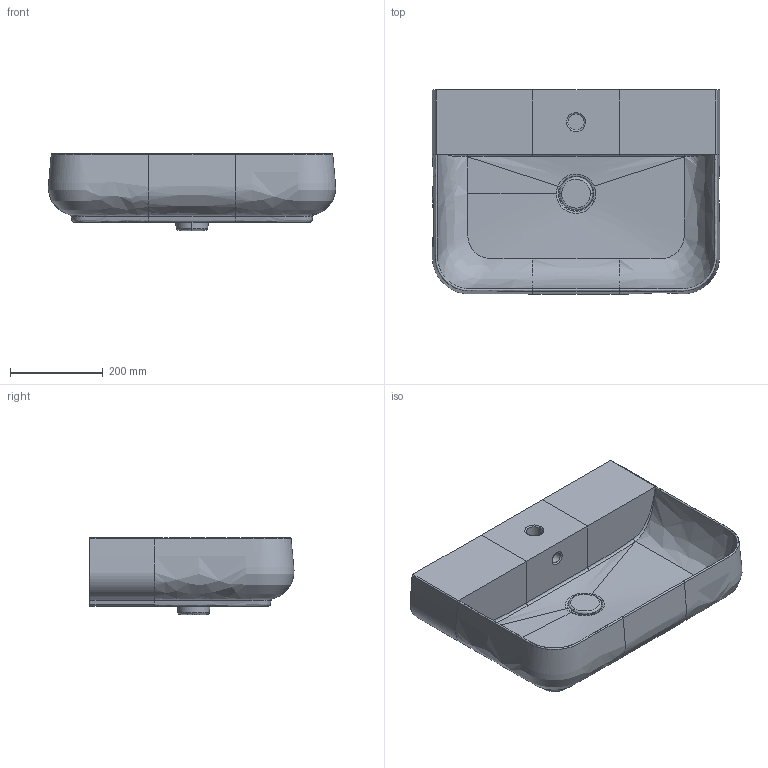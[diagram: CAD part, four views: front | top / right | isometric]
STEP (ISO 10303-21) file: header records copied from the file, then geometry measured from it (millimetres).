
FILE_DESCRIPTION(/* description */ (''),/* implementation_level */ '2;1');
FILE_NAME(/* name */ 'QUBE_4',/* time_stamp */ '2020-11-16T12:42:30+01:00',/* author */ (''),/* organization */ (''),/* preprocessor_version */ 'ST-DEVELOPER v15',/* originating_system */ '',/* authorisation */ '');
FILE_SCHEMA (('AUTOMOTIVE_DESIGN'));
Length unit declared in the file: millimetre
Products named in the file (1): Document
Bounding box: 620.8 x 440.72 x 166.48 mm (x, y, z)
Volume: 16638976.6 mm3; surface area: 952910.5 mm2
Topology: 2 solids, 2 shells, 88 faces, 205 edges, 119 vertices
Faces by surface type: bspline 74, plane 14
Entity records: 38355 total; most frequent: CARTESIAN_POINT 37091, ORIENTED_EDGE 406, EDGE_CURVE 203, B_SPLINE_CURVE_WITH_KNOTS 138, VERTEX_POINT 119, EDGE_LOOP 90, ADVANCED_FACE 88, FACE_OUTER_BOUND 88
